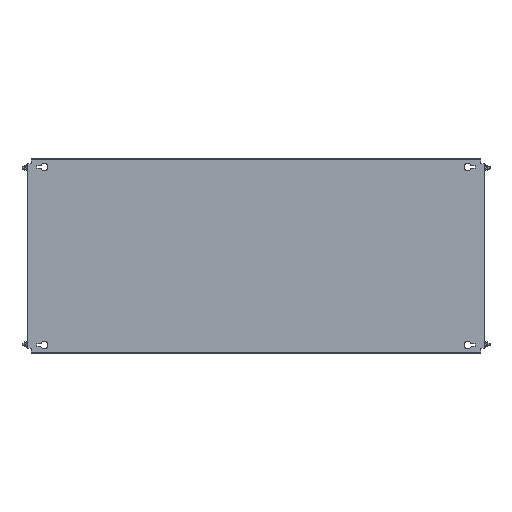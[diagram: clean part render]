
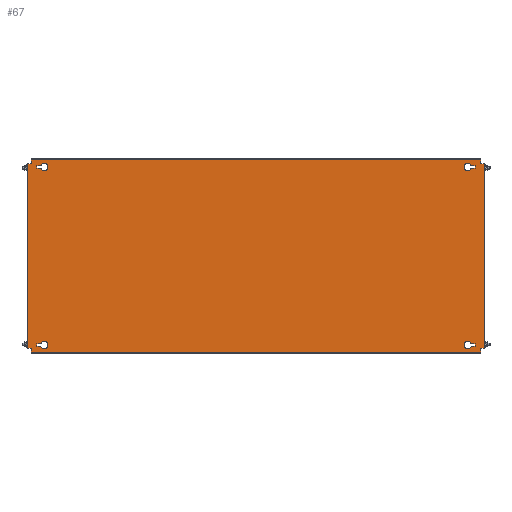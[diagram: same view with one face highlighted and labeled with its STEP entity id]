
A CAD part, top view. The second image highlights one B-rep face of the part: STEP entity #67.
In plain terms, the highlighted planar face has unit normal (0, 0, 1).
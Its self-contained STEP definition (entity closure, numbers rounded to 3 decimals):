
#67 = ADVANCED_FACE('',(#68,#103,#138,#300,#335),#370,.T.);
#68 = FACE_BOUND('',#69,.T.);
#69 = EDGE_LOOP('',(#70,#80,#88,#96));
#70 = ORIENTED_EDGE('',*,*,#71,.T.);
#71 = EDGE_CURVE('',#72,#74,#76,.T.);
#72 = VERTEX_POINT('',#73);
#73 = CARTESIAN_POINT('',(518.393,217.75,2.5));
#74 = VERTEX_POINT('',#75);
#75 = CARTESIAN_POINT('',(528.,217.75,2.5));
#76 = LINE('',#77,#78);
#77 = CARTESIAN_POINT('',(527.,217.75,2.5));
#78 = VECTOR('',#79,1.);
#79 = DIRECTION('',(1.,0.,0.));
#80 = ORIENTED_EDGE('',*,*,#81,.T.);
#81 = EDGE_CURVE('',#74,#82,#84,.T.);
#82 = VERTEX_POINT('',#83);
#83 = CARTESIAN_POINT('',(528.,211.25,2.5));
#84 = LINE('',#85,#86);
#85 = CARTESIAN_POINT('',(528.,217.75,2.5));
#86 = VECTOR('',#87,1.);
#87 = DIRECTION('',(0.,-1.,0.));
#88 = ORIENTED_EDGE('',*,*,#89,.T.);
#89 = EDGE_CURVE('',#82,#90,#92,.T.);
#90 = VERTEX_POINT('',#91);
#91 = CARTESIAN_POINT('',(518.393,211.25,2.5));
#92 = LINE('',#93,#94);
#93 = CARTESIAN_POINT('',(527.,211.25,2.5));
#94 = VECTOR('',#95,1.);
#95 = DIRECTION('',(-1.,0.,0.));
#96 = ORIENTED_EDGE('',*,*,#97,.T.);
#97 = EDGE_CURVE('',#90,#72,#98,.T.);
#98 = CIRCLE('',#99,9.);
#99 = AXIS2_PLACEMENT_3D('',#100,#101,#102);
#100 = CARTESIAN_POINT('',(510.,214.5,2.5));
#101 = DIRECTION('',(0.,0.,-1.));
#102 = DIRECTION('',(1.,0.,0.));
#103 = FACE_BOUND('',#104,.T.);
#104 = EDGE_LOOP('',(#105,#115,#123,#131));
#105 = ORIENTED_EDGE('',*,*,#106,.T.);
#106 = EDGE_CURVE('',#107,#109,#111,.T.);
#107 = VERTEX_POINT('',#108);
#108 = CARTESIAN_POINT('',(-518.393,-217.75,2.5));
#109 = VERTEX_POINT('',#110);
#110 = CARTESIAN_POINT('',(-528.,-217.75,2.5));
#111 = LINE('',#112,#113);
#112 = CARTESIAN_POINT('',(-527.,-217.75,2.5));
#113 = VECTOR('',#114,1.);
#114 = DIRECTION('',(-1.,0.,0.));
#115 = ORIENTED_EDGE('',*,*,#116,.T.);
#116 = EDGE_CURVE('',#109,#117,#119,.T.);
#117 = VERTEX_POINT('',#118);
#118 = CARTESIAN_POINT('',(-528.,-211.25,2.5));
#119 = LINE('',#120,#121);
#120 = CARTESIAN_POINT('',(-528.,-217.75,2.5));
#121 = VECTOR('',#122,1.);
#122 = DIRECTION('',(0.,1.,0.));
#123 = ORIENTED_EDGE('',*,*,#124,.T.);
#124 = EDGE_CURVE('',#117,#125,#127,.T.);
#125 = VERTEX_POINT('',#126);
#126 = CARTESIAN_POINT('',(-518.393,-211.25,2.5));
#127 = LINE('',#128,#129);
#128 = CARTESIAN_POINT('',(-527.,-211.25,2.5));
#129 = VECTOR('',#130,1.);
#130 = DIRECTION('',(1.,-0.,-0.));
#131 = ORIENTED_EDGE('',*,*,#132,.T.);
#132 = EDGE_CURVE('',#125,#107,#133,.T.);
#133 = CIRCLE('',#134,9.);
#134 = AXIS2_PLACEMENT_3D('',#135,#136,#137);
#135 = CARTESIAN_POINT('',(-510.,-214.5,2.5));
#136 = DIRECTION('',(0.,0.,-1.));
#137 = DIRECTION('',(-1.,0.,0.));
#138 = FACE_BOUND('',#139,.T.);
#139 = EDGE_LOOP('',(#140,#150,#158,#166,#174,#182,#190,#198,#206,#214,
    #222,#230,#238,#246,#254,#262,#270,#278,#286,#294));
#140 = ORIENTED_EDGE('',*,*,#141,.F.);
#141 = EDGE_CURVE('',#142,#144,#146,.T.);
#142 = VERTEX_POINT('',#143);
#143 = CARTESIAN_POINT('',(-546.9,222.5,2.5));
#144 = VERTEX_POINT('',#145);
#145 = CARTESIAN_POINT('',(-541.5,222.5,2.5));
#146 = LINE('',#147,#148);
#147 = CARTESIAN_POINT('',(-547.5,222.5,2.5));
#148 = VECTOR('',#149,1.);
#149 = DIRECTION('',(1.,0.,-0.));
#150 = ORIENTED_EDGE('',*,*,#151,.T.);
#151 = EDGE_CURVE('',#142,#152,#154,.T.);
#152 = VERTEX_POINT('',#153);
#153 = CARTESIAN_POINT('',(-550.,222.5,2.5));
#154 = LINE('',#155,#156);
#155 = CARTESIAN_POINT('',(-546.9,222.5,2.5));
#156 = VECTOR('',#157,1.);
#157 = DIRECTION('',(-1.,0.,0.));
#158 = ORIENTED_EDGE('',*,*,#159,.F.);
#159 = EDGE_CURVE('',#160,#152,#162,.T.);
#160 = VERTEX_POINT('',#161);
#161 = CARTESIAN_POINT('',(-550.,-222.5,2.5));
#162 = LINE('',#163,#164);
#163 = CARTESIAN_POINT('',(-550.,-232.,2.5));
#164 = VECTOR('',#165,1.);
#165 = DIRECTION('',(-0.,1.,-0.));
#166 = ORIENTED_EDGE('',*,*,#167,.F.);
#167 = EDGE_CURVE('',#168,#160,#170,.T.);
#168 = VERTEX_POINT('',#169);
#169 = CARTESIAN_POINT('',(-546.9,-222.5,2.5));
#170 = LINE('',#171,#172);
#171 = CARTESIAN_POINT('',(-541.5,-222.5,2.5));
#172 = VECTOR('',#173,1.);
#173 = DIRECTION('',(-1.,-0.,-0.));
#174 = ORIENTED_EDGE('',*,*,#175,.T.);
#175 = EDGE_CURVE('',#168,#176,#178,.T.);
#176 = VERTEX_POINT('',#177);
#177 = CARTESIAN_POINT('',(-541.5,-222.5,2.5));
#178 = LINE('',#179,#180);
#179 = CARTESIAN_POINT('',(-547.5,-222.5,2.5));
#180 = VECTOR('',#181,1.);
#181 = DIRECTION('',(1.,0.,-0.));
#182 = ORIENTED_EDGE('',*,*,#183,.T.);
#183 = EDGE_CURVE('',#176,#184,#186,.T.);
#184 = VERTEX_POINT('',#185);
#185 = CARTESIAN_POINT('',(-541.5,-231.4,2.5));
#186 = LINE('',#187,#188);
#187 = CARTESIAN_POINT('',(-541.5,232.,2.5));
#188 = VECTOR('',#189,1.);
#189 = DIRECTION('',(0.,-1.,0.));
#190 = ORIENTED_EDGE('',*,*,#191,.T.);
#191 = EDGE_CURVE('',#184,#192,#194,.T.);
#192 = VERTEX_POINT('',#193);
#193 = CARTESIAN_POINT('',(-541.5,-232.,2.5));
#194 = LINE('',#195,#196);
#195 = CARTESIAN_POINT('',(-541.5,-231.4,2.5));
#196 = VECTOR('',#197,1.);
#197 = DIRECTION('',(-0.,-1.,-0.));
#198 = ORIENTED_EDGE('',*,*,#199,.T.);
#199 = EDGE_CURVE('',#192,#200,#202,.T.);
#200 = VERTEX_POINT('',#201);
#201 = CARTESIAN_POINT('',(541.5,-232.,2.5));
#202 = LINE('',#203,#204);
#203 = CARTESIAN_POINT('',(541.5,-232.,2.5));
#204 = VECTOR('',#205,1.);
#205 = DIRECTION('',(1.,0.,0.));
#206 = ORIENTED_EDGE('',*,*,#207,.F.);
#207 = EDGE_CURVE('',#208,#200,#210,.T.);
#208 = VERTEX_POINT('',#209);
#209 = CARTESIAN_POINT('',(541.5,-231.4,2.5));
#210 = LINE('',#211,#212);
#211 = CARTESIAN_POINT('',(541.5,-232.,2.5));
#212 = VECTOR('',#213,1.);
#213 = DIRECTION('',(0.,-1.,0.));
#214 = ORIENTED_EDGE('',*,*,#215,.T.);
#215 = EDGE_CURVE('',#208,#216,#218,.T.);
#216 = VERTEX_POINT('',#217);
#217 = CARTESIAN_POINT('',(541.5,-222.5,2.5));
#218 = LINE('',#219,#220);
#219 = CARTESIAN_POINT('',(541.5,232.,2.5));
#220 = VECTOR('',#221,1.);
#221 = DIRECTION('',(0.,1.,-0.));
#222 = ORIENTED_EDGE('',*,*,#223,.F.);
#223 = EDGE_CURVE('',#224,#216,#226,.T.);
#224 = VERTEX_POINT('',#225);
#225 = CARTESIAN_POINT('',(546.9,-222.5,2.5));
#226 = LINE('',#227,#228);
#227 = CARTESIAN_POINT('',(547.5,-222.5,2.5));
#228 = VECTOR('',#229,1.);
#229 = DIRECTION('',(-1.,0.,-0.));
#230 = ORIENTED_EDGE('',*,*,#231,.T.);
#231 = EDGE_CURVE('',#224,#232,#234,.T.);
#232 = VERTEX_POINT('',#233);
#233 = CARTESIAN_POINT('',(550.,-222.5,2.5));
#234 = LINE('',#235,#236);
#235 = CARTESIAN_POINT('',(546.9,-222.5,2.5));
#236 = VECTOR('',#237,1.);
#237 = DIRECTION('',(1.,-0.,0.));
#238 = ORIENTED_EDGE('',*,*,#239,.F.);
#239 = EDGE_CURVE('',#240,#232,#242,.T.);
#240 = VERTEX_POINT('',#241);
#241 = CARTESIAN_POINT('',(550.,222.5,2.5));
#242 = LINE('',#243,#244);
#243 = CARTESIAN_POINT('',(550.,-232.,2.5));
#244 = VECTOR('',#245,1.);
#245 = DIRECTION('',(-0.,-1.,0.));
#246 = ORIENTED_EDGE('',*,*,#247,.F.);
#247 = EDGE_CURVE('',#248,#240,#250,.T.);
#248 = VERTEX_POINT('',#249);
#249 = CARTESIAN_POINT('',(546.9,222.5,2.5));
#250 = LINE('',#251,#252);
#251 = CARTESIAN_POINT('',(-541.5,222.5,2.5));
#252 = VECTOR('',#253,1.);
#253 = DIRECTION('',(1.,-0.,0.));
#254 = ORIENTED_EDGE('',*,*,#255,.T.);
#255 = EDGE_CURVE('',#248,#256,#258,.T.);
#256 = VERTEX_POINT('',#257);
#257 = CARTESIAN_POINT('',(541.5,222.5,2.5));
#258 = LINE('',#259,#260);
#259 = CARTESIAN_POINT('',(547.5,222.5,2.5));
#260 = VECTOR('',#261,1.);
#261 = DIRECTION('',(-1.,0.,-0.));
#262 = ORIENTED_EDGE('',*,*,#263,.T.);
#263 = EDGE_CURVE('',#256,#264,#266,.T.);
#264 = VERTEX_POINT('',#265);
#265 = CARTESIAN_POINT('',(541.5,231.4,2.5));
#266 = LINE('',#267,#268);
#267 = CARTESIAN_POINT('',(541.5,232.,2.5));
#268 = VECTOR('',#269,1.);
#269 = DIRECTION('',(0.,1.,-0.));
#270 = ORIENTED_EDGE('',*,*,#271,.T.);
#271 = EDGE_CURVE('',#264,#272,#274,.T.);
#272 = VERTEX_POINT('',#273);
#273 = CARTESIAN_POINT('',(541.5,232.,2.5));
#274 = LINE('',#275,#276);
#275 = CARTESIAN_POINT('',(541.5,231.4,2.5));
#276 = VECTOR('',#277,1.);
#277 = DIRECTION('',(-0.,1.,-0.));
#278 = ORIENTED_EDGE('',*,*,#279,.T.);
#279 = EDGE_CURVE('',#272,#280,#282,.T.);
#280 = VERTEX_POINT('',#281);
#281 = CARTESIAN_POINT('',(-541.5,232.,2.5));
#282 = LINE('',#283,#284);
#283 = CARTESIAN_POINT('',(-541.5,232.,2.5));
#284 = VECTOR('',#285,1.);
#285 = DIRECTION('',(-1.,0.,0.));
#286 = ORIENTED_EDGE('',*,*,#287,.F.);
#287 = EDGE_CURVE('',#288,#280,#290,.T.);
#288 = VERTEX_POINT('',#289);
#289 = CARTESIAN_POINT('',(-541.5,231.4,2.5));
#290 = LINE('',#291,#292);
#291 = CARTESIAN_POINT('',(-541.5,-232.,2.5));
#292 = VECTOR('',#293,1.);
#293 = DIRECTION('',(0.,1.,-0.));
#294 = ORIENTED_EDGE('',*,*,#295,.T.);
#295 = EDGE_CURVE('',#288,#144,#296,.T.);
#296 = LINE('',#297,#298);
#297 = CARTESIAN_POINT('',(-541.5,232.,2.5));
#298 = VECTOR('',#299,1.);
#299 = DIRECTION('',(0.,-1.,0.));
#300 = FACE_BOUND('',#301,.T.);
#301 = EDGE_LOOP('',(#302,#312,#320,#328));
#302 = ORIENTED_EDGE('',*,*,#303,.F.);
#303 = EDGE_CURVE('',#304,#306,#308,.T.);
#304 = VERTEX_POINT('',#305);
#305 = CARTESIAN_POINT('',(528.,-211.25,2.5));
#306 = VERTEX_POINT('',#307);
#307 = CARTESIAN_POINT('',(518.393,-211.25,2.5));
#308 = LINE('',#309,#310);
#309 = CARTESIAN_POINT('',(518.393,-211.25,2.5));
#310 = VECTOR('',#311,1.);
#311 = DIRECTION('',(-1.,0.,0.));
#312 = ORIENTED_EDGE('',*,*,#313,.F.);
#313 = EDGE_CURVE('',#314,#304,#316,.T.);
#314 = VERTEX_POINT('',#315);
#315 = CARTESIAN_POINT('',(528.,-217.75,2.5));
#316 = LINE('',#317,#318);
#317 = CARTESIAN_POINT('',(528.,-211.25,2.5));
#318 = VECTOR('',#319,1.);
#319 = DIRECTION('',(0.,1.,0.));
#320 = ORIENTED_EDGE('',*,*,#321,.F.);
#321 = EDGE_CURVE('',#322,#314,#324,.T.);
#322 = VERTEX_POINT('',#323);
#323 = CARTESIAN_POINT('',(518.393,-217.75,2.5));
#324 = LINE('',#325,#326);
#325 = CARTESIAN_POINT('',(527.,-217.75,2.5));
#326 = VECTOR('',#327,1.);
#327 = DIRECTION('',(1.,0.,0.));
#328 = ORIENTED_EDGE('',*,*,#329,.F.);
#329 = EDGE_CURVE('',#306,#322,#330,.T.);
#330 = CIRCLE('',#331,9.);
#331 = AXIS2_PLACEMENT_3D('',#332,#333,#334);
#332 = CARTESIAN_POINT('',(510.,-214.5,2.5));
#333 = DIRECTION('',(0.,-0.,1.));
#334 = DIRECTION('',(1.,0.,0.));
#335 = FACE_BOUND('',#336,.T.);
#336 = EDGE_LOOP('',(#337,#347,#355,#363));
#337 = ORIENTED_EDGE('',*,*,#338,.F.);
#338 = EDGE_CURVE('',#339,#341,#343,.T.);
#339 = VERTEX_POINT('',#340);
#340 = CARTESIAN_POINT('',(-528.,211.25,2.5));
#341 = VERTEX_POINT('',#342);
#342 = CARTESIAN_POINT('',(-518.393,211.25,2.5));
#343 = LINE('',#344,#345);
#344 = CARTESIAN_POINT('',(-518.393,211.25,2.5));
#345 = VECTOR('',#346,1.);
#346 = DIRECTION('',(1.,0.,0.));
#347 = ORIENTED_EDGE('',*,*,#348,.F.);
#348 = EDGE_CURVE('',#349,#339,#351,.T.);
#349 = VERTEX_POINT('',#350);
#350 = CARTESIAN_POINT('',(-528.,217.75,2.5));
#351 = LINE('',#352,#353);
#352 = CARTESIAN_POINT('',(-528.,211.25,2.5));
#353 = VECTOR('',#354,1.);
#354 = DIRECTION('',(0.,-1.,0.));
#355 = ORIENTED_EDGE('',*,*,#356,.F.);
#356 = EDGE_CURVE('',#357,#349,#359,.T.);
#357 = VERTEX_POINT('',#358);
#358 = CARTESIAN_POINT('',(-518.393,217.75,2.5));
#359 = LINE('',#360,#361);
#360 = CARTESIAN_POINT('',(-527.,217.75,2.5));
#361 = VECTOR('',#362,1.);
#362 = DIRECTION('',(-1.,0.,0.));
#363 = ORIENTED_EDGE('',*,*,#364,.F.);
#364 = EDGE_CURVE('',#341,#357,#365,.T.);
#365 = CIRCLE('',#366,9.);
#366 = AXIS2_PLACEMENT_3D('',#367,#368,#369);
#367 = CARTESIAN_POINT('',(-510.,214.5,2.5));
#368 = DIRECTION('',(0.,-0.,1.));
#369 = DIRECTION('',(-1.,0.,0.));
#370 = PLANE('',#371);
#371 = AXIS2_PLACEMENT_3D('',#372,#373,#374);
#372 = CARTESIAN_POINT('',(-541.5,-232.,2.5));
#373 = DIRECTION('',(-0.,0.,1.));
#374 = DIRECTION('',(1.,0.,0.));
